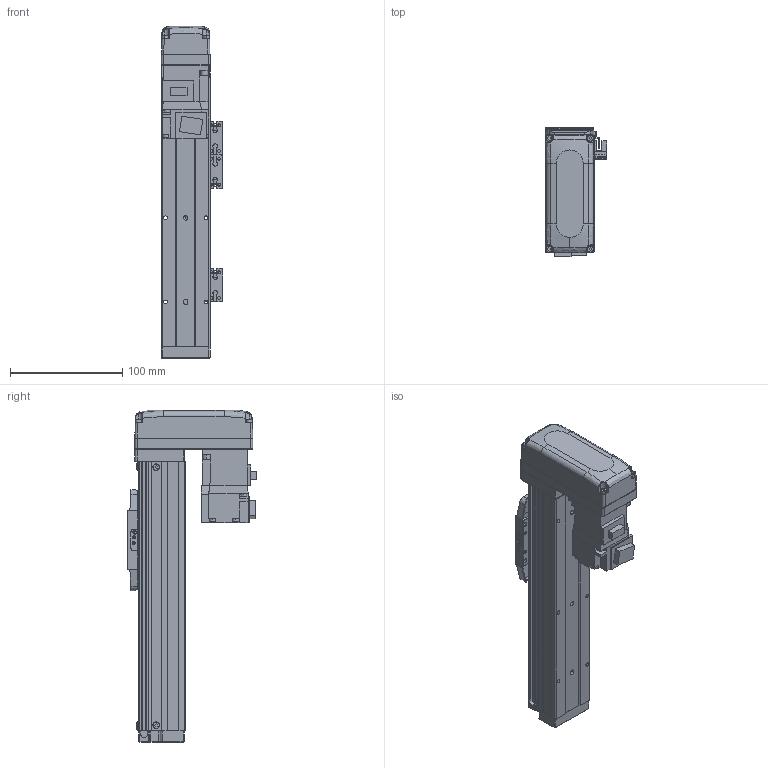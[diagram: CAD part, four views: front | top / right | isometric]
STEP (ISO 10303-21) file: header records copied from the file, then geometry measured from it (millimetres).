
FILE_DESCRIPTION (( 'STEP AP203' ), '1' );
FILE_NAME ('BTH40-100-BM-M05-C4.step', '2021-12-16T00:17:57', ( '微软用户' ), ( '微软中国' ), 'SwSTEP 2.0', 'SolidWorks 2020', '' );
FILE_SCHEMA (( 'CONFIG_CONTROL_DESIGN' ));
Length unit declared in the file: millimetre
Products named in the file (19): GBT 70.3-M3℅6; BTH40-006; GBT96.1-2002 3×0.8; BTH40-027-1; BTH-M3X5X6; BTH40-022; BTH50-026; GBT70.1-2000 M3×16; GBT 70.1-M2.5×6; BTH40-100-BM-M05-C4; BTH50-028; BTH40-004; BTH50-023; BTH40-013; BTH40-001-50_BTH40-001-100; BTH50-024; HG-KR13; BTH40-003; GBT 70.1-M3℅6
Assembly tree (47 placements, depth 2):
  BTH40-100-BM-M05-C4
    BTH40-001-50_BTH40-001-100
    BTH40-003
    BTH40-006
    BTH-M3X5X6  x8
    GBT70.1-2000 M3×16  x4
    BTH50-028  x2
    BTH50-023  x3
    BTH50-024  x3
    GBT 70.1-M3℅6  x6
    GBT96.1-2002 3×0.8  x6
    BTH40-022
    GBT 70.1-M2.5×6  x2
    BTH40-004
    BTH40-013
    HG-KR13
    GBT 70.3-M3℅6  x4
    BTH40-027-1
    BTH50-026
Bounding box: 55.2 x 115.8 x 296 mm (x, y, z)
Volume: 688610.4 mm3; surface area: 146320.3 mm2
Topology: 49 solids, 49 shells, 1967 faces, 4611 edges, 2834 vertices
Faces by surface type: plane 1052, cylinder 479, cone 270, torus 128, bspline 34, sphere 4
Entity records: 39099 total; most frequent: CARTESIAN_POINT 7498, DIRECTION 6112, ORIENTED_EDGE 5868, EDGE_CURVE 2934, AXIS2_PLACEMENT_3D 2083, VECTOR 1946, LINE 1946, VERTEX_POINT 1821
